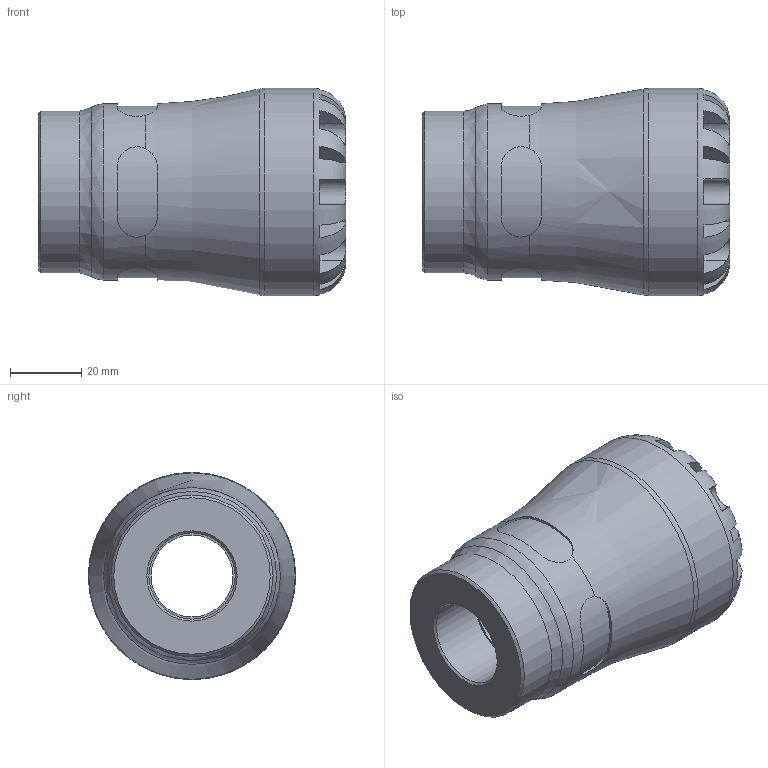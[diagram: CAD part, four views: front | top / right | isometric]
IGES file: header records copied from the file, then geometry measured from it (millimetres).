
Global section: file name: 107300032007_197300032007.ipt; native system: Autodesk Inventor 2015; preprocessor: unknown; author: KIM; date: 20170122.113604; units: millimetre
Bounding box: 86 x 58 x 58 mm (x, y, z)
Volume: 118783.7 mm3; surface area: 26351.1 mm2
Topology: 1 solids, 1 shells, 104 faces, 279 edges, 180 vertices
Faces by surface type: plane 61, revolution 27, cylinder 15, cone 1
Full cylindrical faces by diameter (mm): 45.24 x1, 49.3 x1, 58 x1
